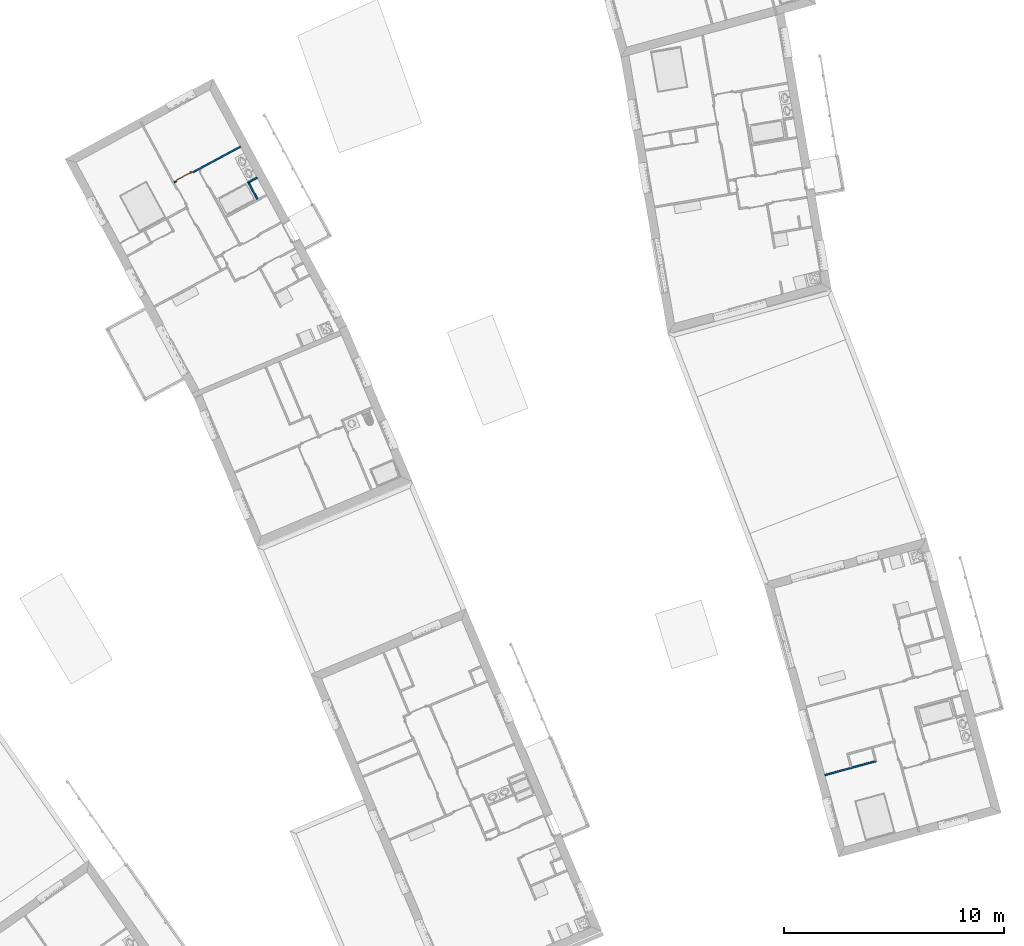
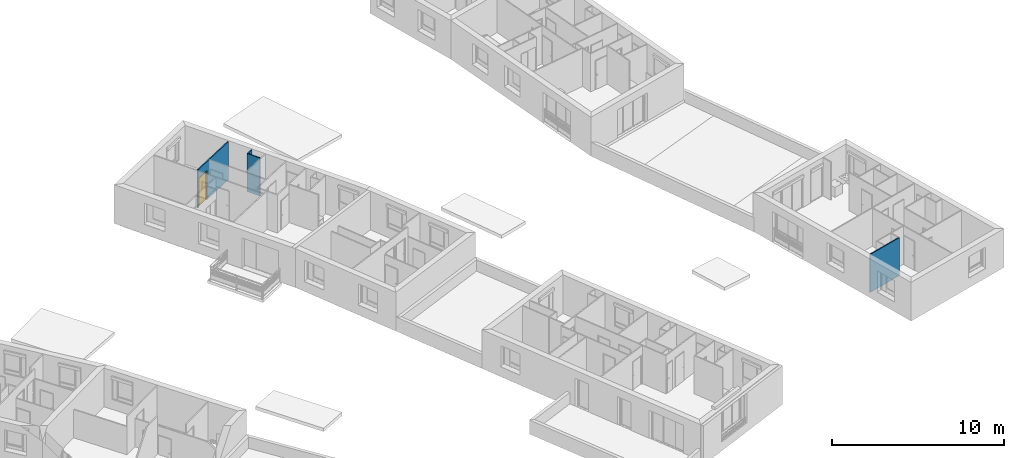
# One storey, part 59 of 121: 4 walls, 1 door, 1 opening.
"""IFC2X3 building model written with IfcOpenShell, lengths in metres."""

import ifcopenshell
import ifcopenshell.guid

model = None  # the IFC model being written
_history = None  # IfcOwnerHistory: only IFC2X3 demands one
_inside = {}  # id of a spatial element -> (the spatial element, [elements in it])
_under = {}  # id of a project, library or spatial element -> (it, [spatial elements below it])
_declared = {}  # id of a project -> (the project, [libraries it declares])
_typed = {}  # id of a type object -> (the type object, [elements of that type])
_made_of = {}  # id of a material, layer set ... -> (it, [elements and type objects made of it])


def new_model(schema):
    """Start an empty IFC model of exactly this schema.

    Asked for "IFC4X3", IfcOpenShell would pick the latest addendum, in which some entities
    have other attributes; the version numbers below select the first issue.
    IFC2X3 requires an IfcOwnerHistory on every rooted entity: one is made here for all.
    """
    global model, _history
    if schema == "IFC4X3":
        model = ifcopenshell.file(schema_version=(4, 3, 0, 0))
    else:
        model = ifcopenshell.file(schema=schema)
    _inside.clear()
    _under.clear()
    _declared.clear()
    _typed.clear()
    _made_of.clear()
    _history = None
    if model.schema == "IFC2X3":
        org = make("IfcOrganization", Name="unknown")
        user = make(
            "IfcPersonAndOrganization",
            ThePerson=make("IfcPerson", FamilyName="unknown"),
            TheOrganization=org,
        )
        app = make(
            "IfcApplication",
            ApplicationDeveloper=org,
            Version="unknown",
            ApplicationFullName="unknown",
            ApplicationIdentifier="unknown",
        )
        _history = make(
            "IfcOwnerHistory",
            OwningUser=user,
            OwningApplication=app,
            ChangeAction="ADDED",
            CreationDate=0,
        )
    return model


def make(cls, **values):
    """One entity of the class cls with the attributes given. An attribute that is None is left unset."""
    return model.create_entity(
        cls, **{name: value for name, value in values.items() if value is not None}
    )


def entity(cls, *values):
    """Any entity or typed value of the class cls, its attributes in the order of the schema. None: left unset."""
    e = model.create_entity(cls)
    for i, value in enumerate(values):
        if value is not None:
            e[i] = value
    return e


def rooted(cls, **values):
    """An entity with a GlobalId (a new one), such as an element, a storey or a relation."""
    return make(cls, GlobalId=ifcopenshell.guid.new(), OwnerHistory=_history, **values)


def si_unit(unit_type, name, prefix=None):
    """IfcSIUnit, for example si_unit("LENGTHUNIT", "METRE", prefix="MILLI")."""
    return make("IfcSIUnit", UnitType=unit_type, Prefix=prefix, Name=name)


def converted_unit(unit_type, name, factor, base, dimensions=None, offset=None):
    """IfcConversionBasedUnit, such as the inch: factor (a typed value) times the base unit."""
    return make(
        "IfcConversionBasedUnit"
        if offset is None
        else "IfcConversionBasedUnitWithOffset",
        ConversionOffset=offset,
        Dimensions=None
        if dimensions is None
        else entity("IfcDimensionalExponents", *dimensions),
        UnitType=unit_type,
        Name=name,
        ConversionFactor=make(
            "IfcMeasureWithUnit", ValueComponent=factor, UnitComponent=base
        ),
    )


def derived_unit(unit_type, elements):
    """IfcDerivedUnit: a product of units, each with its exponent."""
    return make(
        "IfcDerivedUnit",
        Elements=[
            make("IfcDerivedUnitElement", Unit=unit, Exponent=power)
            for unit, power in elements
        ],
        UnitType=unit_type,
    )


def money_unit(currency):
    """IfcMonetaryUnit."""
    return make("IfcMonetaryUnit", Currency=currency)


def assignment(units):
    """IfcUnitAssignment: the units of a project."""
    return None if units is None else make("IfcUnitAssignment", Units=units)


def point(xyz):
    """IfcCartesianPoint."""
    return None if xyz is None else make("IfcCartesianPoint", Coordinates=xyz)


def direction(xyz):
    """IfcDirection."""
    return None if xyz is None else make("IfcDirection", DirectionRatios=xyz)


def frame(location, z_axis=None, x_axis=None):
    """IfcAxis2Placement3D, a coordinate frame: its origin and axes. An axis left out is left unset."""
    return make(
        "IfcAxis2Placement3D",
        Location=point(location),
        Axis=direction(z_axis),
        RefDirection=direction(x_axis),
    )


def frame_2d(location, x_axis=None):
    """IfcAxis2Placement2D, a coordinate frame in the plane: its origin and x axis."""
    return make(
        "IfcAxis2Placement2D", Location=point(location), RefDirection=direction(x_axis)
    )


def origin_with_axes():
    """The frame at (0, 0, 0) with the z axis (0, 0, 1) and the x axis (1, 0, 0) written out."""
    return frame((0.0, 0.0, 0.0), z_axis=(0.0, 0.0, 1.0), x_axis=(1.0, 0.0, 0.0))


def origin_2d_with_axis():
    """The frame at (0, 0) in the plane with the x axis (1, 0) written out."""
    return frame_2d((0.0, 0.0), x_axis=(1.0, 0.0))


def place(relative_to, where):
    """IfcLocalPlacement: puts the frame where relative to a parent placement (None: the world)."""
    return make(
        "IfcLocalPlacement", PlacementRelTo=relative_to, RelativePlacement=where
    )


def context(
    kind, dimensions, precision=None, world=None, true_north=None, identifier=None
):
    """IfcGeometricRepresentationContext, for example the 3D "Model" context."""
    return make(
        "IfcGeometricRepresentationContext",
        ContextIdentifier=identifier,
        ContextType=kind,
        CoordinateSpaceDimension=dimensions,
        Precision=precision,
        WorldCoordinateSystem=world,
        TrueNorth=true_north,
    )


def subcontext(parent, identifier, kind, view, scale=None):
    """IfcGeometricRepresentationSubContext, for example "Body" below "Model"."""
    return make(
        "IfcGeometricRepresentationSubContext",
        ContextIdentifier=identifier,
        ContextType=kind,
        ParentContext=parent,
        TargetScale=scale,
        TargetView=view,
    )


def project(units=None, contexts=None):
    """IfcProject with its units and contexts."""
    return rooted(
        "IfcProject",
        Name="project",
        RepresentationContexts=contexts,
        UnitsInContext=assignment(units),
    )


def spatial(cls, under=None, at=None, **own):
    """A site, building, storey or space (cls), placed at a placement, below another one or the project."""
    s = rooted(cls, ObjectPlacement=at, **own)
    if under is not None:
        _under.setdefault(under.id(), (under, []))[1].append(s)
    return s


def polyline(points):
    """IfcPolyline through the points."""
    return make("IfcPolyline", Points=[point(p) for p in points])


def profile(cls, at=None, kind="AREA", **sizes):
    """A parametric profile (cls). Its sizes go by their IFC names, for example OverallWidth=200.0."""
    return make(cls, ProfileType=kind, Position=at, **sizes)


def rectangle(**sizes):
    """IfcRectangleProfileDef."""
    return profile("IfcRectangleProfileDef", **sizes)


def outline(outer, holes=None, kind="AREA"):
    """IfcArbitraryClosedProfileDef: a profile drawn as a closed curve; with holes, ...WithVoids."""
    if holes is None:
        return make("IfcArbitraryClosedProfileDef", ProfileType=kind, OuterCurve=outer)
    return make(
        "IfcArbitraryProfileDefWithVoids",
        ProfileType=kind,
        OuterCurve=outer,
        InnerCurves=holes,
    )


def extrude(swept, where, along, depth):
    """IfcExtrudedAreaSolid: the profile swept, set in the frame where, extruded along a direction by depth."""
    return make(
        "IfcExtrudedAreaSolid",
        SweptArea=swept,
        Position=where,
        ExtrudedDirection=direction(along),
        Depth=depth,
    )


def faces_of(points, faces, orient=None, outer=None):
    """IfcFace entities. A face is a list of loops; a loop is a list of indices into points, from 0.

    orient and outer hold one flag for each loop. By default every Orientation is true, the
    first loop of a face is its IfcFaceOuterBound and the others are IfcFaceBound.
    """
    made = []
    for i, loops in enumerate(faces):
        bounds = []
        for j, loop in enumerate(loops):
            is_outer = j == 0 if outer is None else outer[i][j]
            bounds.append(
                make(
                    "IfcFaceOuterBound" if is_outer else "IfcFaceBound",
                    Bound=make("IfcPolyLoop", Polygon=[points[k] for k in loop]),
                    Orientation=True if orient is None else orient[i][j],
                )
            )
        made.append(make("IfcFace", Bounds=bounds))
    return made


def faceted_brep(points, faces, orient=None, outer=None, voids=None):
    """IfcFacetedBrep: a solid bounded by flat faces; with voids (closed shells), ...WithVoids."""
    shared = [point(p) for p in points]
    hull = make("IfcClosedShell", CfsFaces=faces_of(shared, faces, orient, outer))
    if voids is None:
        return make("IfcFacetedBrep", Outer=hull)
    return make(
        "IfcFacetedBrepWithVoids",
        Outer=hull,
        Voids=[
            make(cls, CfsFaces=faces_of(shared, fs, o, b)) for cls, fs, o, b in voids
        ],
    )


def shape(context_of_items, identifier, shape_type, items):
    """IfcShapeRepresentation: the items that make up one representation, for example the "Body"."""
    return make(
        "IfcShapeRepresentation",
        ContextOfItems=context_of_items,
        RepresentationIdentifier=identifier,
        RepresentationType=shape_type,
        Items=items,
    )


def source(mapping_origin, context_of_items, identifier, shape_type, items):
    """IfcRepresentationMap: a shape defined once, which mapped items show again and again."""
    return make(
        "IfcRepresentationMap",
        MappingOrigin=mapping_origin,
        MappedRepresentation=shape(context_of_items, identifier, shape_type, items),
    )


def transform(
    local_origin,
    x_axis=None,
    y_axis=None,
    z_axis=None,
    scale=None,
    scale2=None,
    scale3=None,
    uniform=True,
):
    """IfcCartesianTransformationOperator3D, or its non-uniform kind. x_axis, y_axis, z_axis: its Axis1, 2, 3."""
    if uniform:
        return make(
            "IfcCartesianTransformationOperator3D",
            Axis1=direction(x_axis),
            Axis2=direction(y_axis),
            LocalOrigin=point(local_origin),
            Scale=scale,
            Axis3=direction(z_axis),
        )
    return make(
        "IfcCartesianTransformationOperator3DnonUniform",
        Axis1=direction(x_axis),
        Axis2=direction(y_axis),
        LocalOrigin=point(local_origin),
        Scale=scale,
        Axis3=direction(z_axis),
        Scale2=scale2,
        Scale3=scale3,
    )


def mapped(mapping_source, mapping_target):
    """IfcMappedItem: shows the shape of a source again, moved by a transform."""
    return make(
        "IfcMappedItem", MappingSource=mapping_source, MappingTarget=mapping_target
    )


def material(Name=None, Category=None):
    """IfcMaterial."""
    return make("IfcMaterial", Name=Name, Category=Category)


def layer(
    of_material, thickness, ventilated=None, Name=None, Category=None, Priority=None
):
    """IfcMaterialLayer: one layer of a wall or slab, of a material (None: an air gap)."""
    return make(
        "IfcMaterialLayer",
        Material=of_material,
        LayerThickness=thickness,
        IsVentilated=ventilated,
        Name=Name,
        Category=Category,
        Priority=Priority,
    )


def layer_set(layers, Name=None):
    """IfcMaterialLayerSet."""
    return make("IfcMaterialLayerSet", MaterialLayers=layers, LayerSetName=Name)


def layer_usage(for_layer_set, set_direction, sense, offset, extent=None):
    """IfcMaterialLayerSetUsage: how a layer set lies in its element."""
    return make(
        "IfcMaterialLayerSetUsage",
        ForLayerSet=for_layer_set,
        LayerSetDirection=set_direction,
        DirectionSense=sense,
        OffsetFromReferenceLine=offset,
        ReferenceExtent=extent,
    )


def made_of(thing, what):
    """Note that an element or type object is made of a material, layer set ...; save() writes the relation."""
    if what is not None:
        _made_of.setdefault(what.id(), (what, []))[1].append(thing)
    return thing


def type_object(cls, material=None, **own):
    """A type object (cls), such as IfcWallType, which elements share."""
    return made_of(rooted(cls, **own), material)


def element(
    cls,
    number,
    at=None,
    inside=None,
    cuts=None,
    type_object=None,
    material=None,
    context=None,
    identifier="Body",
    shape_type=None,
    held_by="IfcProductDefinitionShape",
    body=None,
    shapes=None,
    **own,
):
    """One element of the class cls, such as IfcWall. Its Tag is "e" and its number.

    at: its placement. inside: the storey or other place that contains it. cuts: it is an
    opening in that element (IfcRelVoidsElement). A single representation is given by context,
    identifier, shape_type and body (its items); several are given by shapes. held_by: the class
    of the entity that holds the representations. save() writes the other relations.
    """
    e = rooted(cls, Tag="e%d" % number, ObjectPlacement=at, **own)
    if body is not None:
        shapes = [shape(context, identifier, shape_type, body)]
    if shapes is not None:
        e.Representation = make(held_by, Representations=shapes)
    if inside is not None:
        _inside.setdefault(inside.id(), (inside, []))[1].append(e)
    if cuts is not None:
        rooted(
            "IfcRelVoidsElement", RelatingBuildingElement=cuts, RelatedOpeningElement=e
        )
    if type_object is not None:
        _typed.setdefault(type_object.id(), (type_object, []))[1].append(e)
    return made_of(e, material)


def fill(opening, filler):
    """IfcRelFillsElement: the door or window that sits in an opening."""
    return rooted(
        "IfcRelFillsElement",
        RelatingOpeningElement=opening,
        RelatedBuildingElement=filler,
    )


def aggregate(whole, parts):
    """IfcRelAggregates: a whole, such as a stair, and the parts it consists of."""
    return rooted("IfcRelAggregates", RelatingObject=whole, RelatedObjects=parts)


def save(model, path):
    """Write the relations noted so far, then the file.

    IfcRelAggregates (storeys below a building ...), IfcRelContainedInSpatialStructure (elements
    in a storey), IfcRelDefinesByType, IfcRelAssociatesMaterial and IfcRelDeclares: one each for
    every whole, place, type object, material and project.
    """
    for whole, parts in _under.values():
        aggregate(whole, parts)
    for where, things in _inside.values():
        rooted(
            "IfcRelContainedInSpatialStructure",
            RelatedElements=things,
            RelatingStructure=where,
        )
    for kind, things in _typed.values():
        rooted("IfcRelDefinesByType", RelatedObjects=things, RelatingType=kind)
    for what, things in _made_of.values():
        rooted("IfcRelAssociatesMaterial", RelatedObjects=things, RelatingMaterial=what)
    for by, libraries in _declared.values():
        rooted("IfcRelDeclares", RelatingContext=by, RelatedDefinitions=libraries)
    model.write(path)


model = new_model("IFC2X3")

# Units and contexts
model_context = context("Model", 3, precision=1e-05, world=origin_with_axes(), true_north=direction((0.0, 1.0)))
body_context = subcontext(model_context, "Body", "Model", "MODEL_VIEW")
ifc_project = project(units=[si_unit("LENGTHUNIT", "METRE"), si_unit("AREAUNIT", "SQUARE_METRE"), si_unit("VOLUMEUNIT", "CUBIC_METRE"), converted_unit("PLANEANGLEUNIT", "DEGREE", entity("IfcPlaneAngleMeasure", 0.0174532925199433), si_unit("PLANEANGLEUNIT", "RADIAN"), dimensions=[0, 0, 0, 0, 0, 0, 0]), money_unit("CHF"), converted_unit("TIMEUNIT", "Year", entity("IfcTimeMeasure", 31557600.0), si_unit("TIMEUNIT", "SECOND"), dimensions=[0, 0, 1, 0, 0, 0, 0]), si_unit("MASSUNIT", "GRAM", prefix="KILO"), si_unit("THERMODYNAMICTEMPERATUREUNIT", "DEGREE_CELSIUS"), si_unit("LUMINOUSINTENSITYUNIT", "LUMEN"), si_unit("ENERGYUNIT", "JOULE", prefix="MEGA"), derived_unit("THERMALCONDUCTANCEUNIT", [(si_unit("POWERUNIT", "WATT"), 1), (si_unit("LENGTHUNIT", "METRE"), -1), (si_unit("THERMODYNAMICTEMPERATUREUNIT", "KELVIN"), -1)]), derived_unit("SPECIFICHEATCAPACITYUNIT", [(si_unit("ENERGYUNIT", "JOULE"), 1), (si_unit("MASSUNIT", "GRAM", prefix="KILO"), -1), (si_unit("THERMODYNAMICTEMPERATUREUNIT", "KELVIN"), -1)]), derived_unit("MASSDENSITYUNIT", [(si_unit("MASSUNIT", "GRAM", prefix="KILO"), 1), (si_unit("VOLUMEUNIT", "CUBIC_METRE"), -1)])], contexts=[model_context])

# Site, building, storey
site_placement = place(None, origin_with_axes())
site = spatial("IfcSite", under=ifc_project, at=site_placement, Name="Site", CompositionType="ELEMENT")
building_placement = place(site_placement, origin_with_axes())
building = spatial("IfcBuilding", under=site, at=building_placement, Name="Bâtiment", CompositionType="ELEMENT")
storey_placement = place(building_placement, frame((0.0, 0.0, 2.75), z_axis=(0.0, 0.0, 1.0), x_axis=(1.0, 0.0, 0.0)))
storey = spatial("IfcBuildingStorey", under=building, at=storey_placement, Name="Etage 1", CompositionType="ELEMENT", Elevation=2.75)

# Wall, opening, door
ifc_material = material(Name="Hachure solide 268963992")
ifc_layer = layer(ifc_material, 0.07, ventilated="UNKNOWN")
ifc_layer_set = layer_set([ifc_layer], Name="Cloison 70 0826278243")
ifc_layer_usage_1 = layer_usage(ifc_layer_set, "AXIS2", "NEGATIVE", 0.0)
wall_type = type_object("IfcWallType", Name="Cloison 70 0826278243 70", PredefinedType="NOTDEFINED")
wall_1_placement = place(storey_placement, frame((9562.876864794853, -1026.953845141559, 57.7), z_axis=(0.0, 0.0, 1.0), x_axis=(-0.8798137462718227, -0.4753186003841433, 0.0)))
wall_1 = element("IfcWallStandardCase", 1, at=wall_1_placement, inside=storey, type_object=wall_type, material=ifc_layer_usage_1, Name="Mur-149", context=body_context, shape_type="SweptSolid", body=[
    extrude(outline(polyline([(0.3800000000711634, -0.07000000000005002), (3.798769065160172, -0.07000000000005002), (3.798769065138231, 0.0), (0.3800000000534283, 0.0), (0.3800000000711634, -0.07000000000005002)])), origin_with_axes(), (0.0, 0.0, 1.0), 2.7),
])
opening_placement = place(wall_1_placement, frame((3.258124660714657, 0.0, 0.0), z_axis=(0.0, 0.0, 1.0), x_axis=(1.0, 0.0, 0.0)))
opening = element("IfcOpeningElement", 2, at=opening_placement, cuts=wall_1, Name="Por-303", context=body_context, shape_type="SweptSolid", body=[
    extrude(rectangle(XDim=0.9099999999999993, YDim=2.079999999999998, at=origin_2d_with_axis()), frame((0.0, 0.07000000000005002, 1.039999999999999), z_axis=(0.0, 1.0, 0.0), x_axis=(1.0, 0.0, 0.0)), (0.0, 0.0, -1.0), 0.14),
])
door_style = type_object("IfcDoorStyle", Name="Porte_1v", ConstructionType="NOTDEFINED", OperationType="NOTDEFINED", ParameterTakesPrecedence=False, Sizeable=False)
shared_shape = source(origin_with_axes(), body_context, "Body", "Brep", [
    faceted_brep([(-0.455, 0.0, 0.0), (-0.455, 0.0, 2.08), (0.455, 0.0, 2.08), (0.455, 0.0, 0.0), (0.415, 0.0, 0.0), (0.415, 0.0, 2.04), (-0.415, 0.0, 2.04), (-0.415, 0.0, 0.0), (-0.455, -0.07, 0.0), (-0.455, -0.07, 2.08), (0.455, -0.07, 2.08), (0.455, -0.07, 0.0), (0.4, -0.07, 0.0), (0.4, -0.015, 0.0), (0.415, -0.015, 0.0), (0.415, -0.015, 2.04), (-0.415, -0.015, 2.04), (-0.415, -0.015, 0.0), (-0.4, -0.015, 0.0), (-0.4, -0.07, 0.0), (-0.4, -0.07, 2.025), (0.4, -0.07, 2.025), (0.4, -0.015, 2.025), (-0.4, -0.015, 2.025)], [[[0, 1, 2, 3, 4, 5, 6, 7]], [[8, 9, 1, 0]], [[9, 10, 2, 1]], [[10, 11, 3, 2]], [[3, 11, 12, 13, 14, 4]], [[5, 4, 14, 15]], [[6, 5, 15, 16]], [[7, 6, 16, 17]], [[0, 7, 17, 18, 19, 8]], [[19, 20, 21, 12, 11, 10, 9, 8]], [[22, 13, 12, 21]], [[17, 16, 15, 14, 13, 22, 23, 18]], [[18, 23, 20, 19]], [[23, 22, 21, 20]]]),
    faceted_brep([(0.35, -0.015, 0.9), (0.35, -0.015, 1.1), (0.39, -0.015, 1.1), (0.39, -0.015, 0.9), (0.35, -0.025, 0.9), (0.35, -0.025, 1.1), (0.39, -0.025, 1.1), (0.39, -0.025, 0.9)], [[[0, 1, 2, 3]], [[0, 4, 5, 1]], [[1, 5, 6, 2]], [[2, 6, 7, 3]], [[3, 7, 4, 0]], [[7, 6, 5, 4]]]),
    faceted_brep([(0.28, -0.025, 1.0), (0.28, -0.025, 1.02), (0.38, -0.025, 1.02), (0.38, -0.025, 1.0), (0.28, -0.045, 1.0), (0.28, -0.045, 1.02), (0.38, -0.045, 1.02), (0.38, -0.045, 1.0)], [[[0, 1, 2, 3]], [[0, 4, 5, 1]], [[1, 5, 6, 2]], [[2, 6, 7, 3]], [[3, 7, 4, 0]], [[7, 6, 5, 4]]]),
    faceted_brep([(0.35, 0.035, 0.9), (0.35, 0.035, 1.1), (0.39, 0.035, 1.1), (0.39, 0.035, 0.9), (0.35, 0.025, 0.9), (0.35, 0.025, 1.1), (0.39, 0.025, 1.1), (0.39, 0.025, 0.9)], [[[0, 1, 2, 3]], [[0, 4, 5, 1]], [[1, 5, 6, 2]], [[2, 6, 7, 3]], [[3, 7, 4, 0]], [[7, 6, 5, 4]]]),
    faceted_brep([(0.28, 0.05500000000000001, 1.0), (0.28, 0.05500000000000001, 1.02), (0.38, 0.05500000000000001, 1.02), (0.38, 0.05500000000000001, 1.0), (0.28, 0.035, 1.0), (0.28, 0.035, 1.02), (0.38, 0.035, 1.02), (0.38, 0.035, 1.0)], [[[0, 1, 2, 3]], [[0, 4, 5, 1]], [[1, 5, 6, 2]], [[2, 6, 7, 3]], [[3, 7, 4, 0]], [[7, 6, 5, 4]]]),
    faceted_brep([(0.415, 0.025, 0.0), (0.415, -0.015, 0.0), (-0.415, -0.015, 0.0), (-0.415, 0.025, 0.0), (0.415, 0.025, 2.04), (0.415, -0.015, 2.04), (-0.415, -0.015, 2.04), (-0.415, 0.025, 2.04)], [[[0, 1, 2, 3]], [[4, 5, 1, 0]], [[1, 5, 6, 2]], [[3, 2, 6, 7]], [[0, 3, 7, 4]], [[7, 6, 5, 4]]]),
])
door_placement = place(opening_placement, frame((0.4150000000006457, 0.0, 0.0), z_axis=(0.0, 0.0, 1.0), x_axis=(-1.0, 0.0, 0.0)))
door = element("IfcDoor", 3, at=door_placement, inside=storey, type_object=door_style, Name="Por-303", OverallHeight=2.04, OverallWidth=0.83, context=body_context, shape_type="MappedRepresentation", body=[
    mapped(shared_shape, transform((0.4149999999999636, 0.06999999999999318, 0.0))),
])
fill(opening, door)

# Walls
ifc_layer_usage_2 = layer_usage(ifc_layer_set, "AXIS2", "NEGATIVE", 0.0)
wall_2_placement = place(storey_placement, frame((9563.641350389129, -1028.368906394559, 57.7), z_axis=(0.0, 0.0, 1.0), x_axis=(-0.8798137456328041, -0.4753186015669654, 0.0)))
element("IfcWallStandardCase", 4, at=wall_2_placement, inside=storey, type_object=wall_type, material=ifc_layer_usage_2, Name="Mur-149", context=body_context, shape_type="SweptSolid", body=[
    extrude(outline(polyline([(0.3800000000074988, -0.06999999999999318), (0.8670133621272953, -0.06999999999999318), (0.7970133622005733, 0.0), (0.3800000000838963, 0.0), (0.3800000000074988, -0.06999999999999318)])), origin_with_axes(), (0.0, 0.0, 1.0), 2.7),
])
ifc_layer_usage_3 = layer_usage(ifc_layer_set, "AXIS2", "NEGATIVE", 0.0)
wall_3_placement = place(storey_placement, frame((9562.940127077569, -1028.74774167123, 57.7), z_axis=(0.0, 0.0, 1.0), x_axis=(0.4753186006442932, -0.8798137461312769, 0.0)))
element("IfcWallStandardCase", 5, at=wall_3_placement, inside=storey, type_object=wall_type, material=ifc_layer_usage_3, Name="Mur-149", context=body_context, shape_type="SweptSolid", body=[
    extrude(outline(polyline([(-0.06999999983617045, -0.06999999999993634), (0.8299999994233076, -0.06999999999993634), (0.8299999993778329, 0.0), (0.0, 0.0), (-0.06999999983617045, -0.06999999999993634)])), origin_with_axes(), (0.0, 0.0, 1.0), 2.7),
])
ifc_layer_usage_4 = layer_usage(ifc_layer_set, "AXIS2", "NEGATIVE", 0.0)
wall_4_placement = place(storey_placement, frame((9591.409640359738, -1055.105032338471, 57.7), z_axis=(0.0, 0.0, 1.0), x_axis=(-0.9648682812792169, -0.2627340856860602, 0.0)))
element("IfcWallStandardCase", 6, at=wall_4_placement, inside=storey, type_object=wall_type, material=ifc_layer_usage_4, Name="Mur-149", context=body_context, shape_type="SweptSolid", body=[
    extrude(outline(polyline([(0.0, -0.06999999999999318), (2.366839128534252, -0.07000000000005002), (2.366839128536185, 0.0), (-0.07000000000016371, 0.0), (0.0, -0.06999999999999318)])), origin_with_axes(), (0.0, 0.0, 1.0), 2.7),
])

save(model, "model.ifc")
